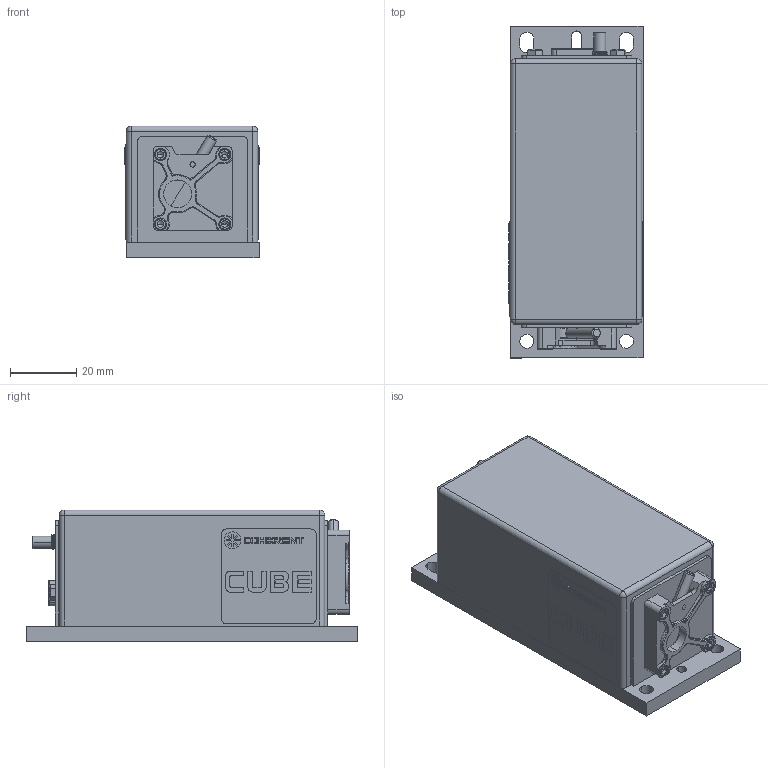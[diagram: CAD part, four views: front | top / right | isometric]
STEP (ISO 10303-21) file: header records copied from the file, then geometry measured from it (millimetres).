
FILE_DESCRIPTION (( 'STEP AP214' ), '1' );
FILE_NAME ('BASIC CUBE ASSEMBLY.STEP', '2010-09-01T15:07:00', ( 'coherent' ), ( '' ), 'SwSTEP 2.0', 'SolidWorks 2010', '' );
FILE_SCHEMA (( 'AUTOMOTIVE_DESIGN' ));
Length unit declared in the file: inch
Products named in the file (1): BASIC CUBE ASSEMBLY
Bounding box: 40.44 x 100 x 39.7 mm (x, y, z)
Surface area: 45706 mm2 (no closed solid volume)
Topology: 0 solids, 31 shells, 1748 faces, 4403 edges, 2795 vertices
Faces by surface type: plane 1012, cylinder 525, cone 122, torus 51, bspline 21, sphere 17
Entity records: 76635 total; most frequent: CARTESIAN_POINT 11304, DIRECTION 8757, ORIENTED_EDGE 8704, EDGE_CURVE 4354, LINE 2933, VECTOR 2933, AXIS2_PLACEMENT_3D 2912, VERTEX_POINT 2793
